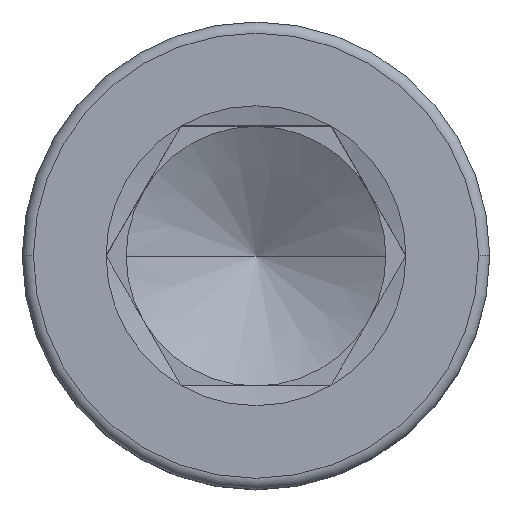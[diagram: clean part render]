
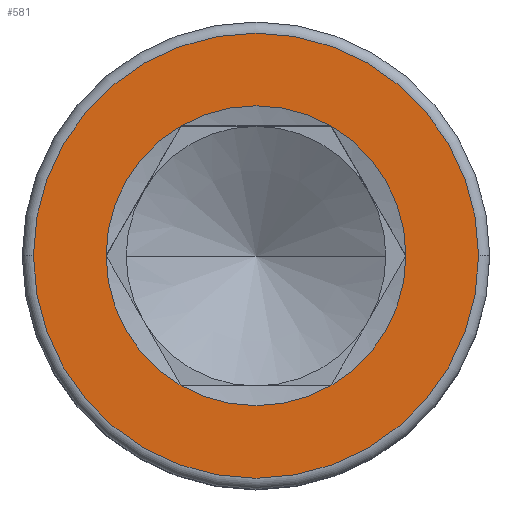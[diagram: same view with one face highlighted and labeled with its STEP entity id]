
A CAD part, top view. The second image highlights one B-rep face of the part: STEP entity #581.
In plain terms, the highlighted planar face has unit normal (0, 0, 1).
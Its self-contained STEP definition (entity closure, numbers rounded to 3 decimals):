
#19 = EDGE_CURVE ( 'NONE', #99, #1230, #98, .T. ) ;
#25 = VERTEX_POINT ( 'NONE', #1719 ) ;
#66 = CARTESIAN_POINT ( 'NONE',  ( 5.774, 0., 12. ) ) ;
#97 = CARTESIAN_POINT ( 'NONE',  ( 8.57, 0., 12. ) ) ;
#98 = CIRCLE ( 'NONE', #1722, 5.774 ) ;
#99 = VERTEX_POINT ( 'NONE', #66 ) ;
#115 = CARTESIAN_POINT ( 'NONE',  ( 0., 0., 12. ) ) ;
#132 = EDGE_LOOP ( 'NONE', ( #480, #725, #1412, #173, #459, #1137 ) ) ;
#136 = DIRECTION ( 'NONE',  ( 0., 0., 1. ) ) ;
#140 = EDGE_CURVE ( 'NONE', #901, #897, #1687, .T. ) ;
#151 = DIRECTION ( 'NONE',  ( 1., 0., 0. ) ) ;
#173 = ORIENTED_EDGE ( 'NONE', *, *, #692, .F. ) ;
#182 = CARTESIAN_POINT ( 'NONE',  ( -2.887, -5., 12. ) ) ;
#187 = CIRCLE ( 'NONE', #1304, 8.57 ) ;
#205 = DIRECTION ( 'NONE',  ( 0., 0., 1. ) ) ;
#222 = AXIS2_PLACEMENT_3D ( 'NONE', #1600, #476, #745 ) ;
#235 = CARTESIAN_POINT ( 'NONE',  ( 0., 0., 12. ) ) ;
#242 = EDGE_CURVE ( 'NONE', #1230, #1504, #645, .T. ) ;
#301 = AXIS2_PLACEMENT_3D ( 'NONE', #1752, #1530, #555 ) ;
#332 = DIRECTION ( 'NONE',  ( 0., 0., 1. ) ) ;
#357 = EDGE_LOOP ( 'NONE', ( #1263, #636 ) ) ;
#386 = AXIS2_PLACEMENT_3D ( 'NONE', #834, #1385, #427 ) ;
#405 = DIRECTION ( 'NONE',  ( 0., 0., 1. ) ) ;
#415 = FACE_BOUND ( 'NONE', #132, .T. ) ;
#427 = DIRECTION ( 'NONE',  ( 1., 0., 0. ) ) ;
#442 = CARTESIAN_POINT ( 'NONE',  ( 0., 0., 12. ) ) ;
#459 = ORIENTED_EDGE ( 'NONE', *, *, #1293, .F. ) ;
#476 = DIRECTION ( 'NONE',  ( 0., 0., 1. ) ) ;
#480 = ORIENTED_EDGE ( 'NONE', *, *, #19, .F. ) ;
#555 = DIRECTION ( 'NONE',  ( 1., 0., 0. ) ) ;
#567 = CIRCLE ( 'NONE', #883, 5.774 ) ;
#581 = ADVANCED_FACE ( 'NONE', ( #810, #415 ), #1360, .T. ) ;
#597 = EDGE_CURVE ( 'NONE', #843, #99, #1434, .T. ) ;
#612 = EDGE_CURVE ( 'NONE', #897, #901, #187, .T. ) ;
#636 = ORIENTED_EDGE ( 'NONE', *, *, #140, .T. ) ;
#645 = CIRCLE ( 'NONE', #386, 5.774 ) ;
#651 = CIRCLE ( 'NONE', #1105, 5.774 ) ;
#687 = DIRECTION ( 'NONE',  ( 1., 0., 0. ) ) ;
#692 = EDGE_CURVE ( 'NONE', #25, #1570, #651, .T. ) ;
#725 = ORIENTED_EDGE ( 'NONE', *, *, #597, .F. ) ;
#745 = DIRECTION ( 'NONE',  ( 1., 0., 0. ) ) ;
#810 = FACE_OUTER_BOUND ( 'NONE', #357, .T. ) ;
#834 = CARTESIAN_POINT ( 'NONE',  ( 0., 0., 12. ) ) ;
#843 = VERTEX_POINT ( 'NONE', #1738 ) ;
#883 = AXIS2_PLACEMENT_3D ( 'NONE', #235, #205, #902 ) ;
#897 = VERTEX_POINT ( 'NONE', #97 ) ;
#901 = VERTEX_POINT ( 'NONE', #1595 ) ;
#902 = DIRECTION ( 'NONE',  ( 1., 0., 0. ) ) ;
#913 = CIRCLE ( 'NONE', #222, 5.774 ) ;
#937 = AXIS2_PLACEMENT_3D ( 'NONE', #115, #136, #973 ) ;
#942 = CARTESIAN_POINT ( 'NONE',  ( 0., 0., 12. ) ) ;
#963 = AXIS2_PLACEMENT_3D ( 'NONE', #942, #405, #151 ) ;
#973 = DIRECTION ( 'NONE',  ( 1., 0., 0. ) ) ;
#1105 = AXIS2_PLACEMENT_3D ( 'NONE', #442, #1136, #1259 ) ;
#1134 = CARTESIAN_POINT ( 'NONE',  ( 2.887, 5., 12. ) ) ;
#1136 = DIRECTION ( 'NONE',  ( 0., 0., 1. ) ) ;
#1137 = ORIENTED_EDGE ( 'NONE', *, *, #242, .F. ) ;
#1230 = VERTEX_POINT ( 'NONE', #1134 ) ;
#1259 = DIRECTION ( 'NONE',  ( 1., 0., 0. ) ) ;
#1263 = ORIENTED_EDGE ( 'NONE', *, *, #612, .T. ) ;
#1280 = EDGE_CURVE ( 'NONE', #1570, #843, #913, .T. ) ;
#1293 = EDGE_CURVE ( 'NONE', #1504, #25, #567, .T. ) ;
#1304 = AXIS2_PLACEMENT_3D ( 'NONE', #1669, #1512, #687 ) ;
#1309 = DIRECTION ( 'NONE',  ( 1., 0., 0. ) ) ;
#1360 = PLANE ( 'NONE',  #937 ) ;
#1385 = DIRECTION ( 'NONE',  ( 0., 0., 1. ) ) ;
#1412 = ORIENTED_EDGE ( 'NONE', *, *, #1280, .F. ) ;
#1434 = CIRCLE ( 'NONE', #963, 5.774 ) ;
#1504 = VERTEX_POINT ( 'NONE', #1633 ) ;
#1512 = DIRECTION ( 'NONE',  ( 0., 0., 1. ) ) ;
#1530 = DIRECTION ( 'NONE',  ( 0., 0., 1. ) ) ;
#1570 = VERTEX_POINT ( 'NONE', #182 ) ;
#1585 = CARTESIAN_POINT ( 'NONE',  ( 0., 0., 12. ) ) ;
#1595 = CARTESIAN_POINT ( 'NONE',  ( -8.57, 0., 12. ) ) ;
#1600 = CARTESIAN_POINT ( 'NONE',  ( 0., 0., 12. ) ) ;
#1633 = CARTESIAN_POINT ( 'NONE',  ( -2.887, 5., 12. ) ) ;
#1669 = CARTESIAN_POINT ( 'NONE',  ( 0., 0., 12. ) ) ;
#1687 = CIRCLE ( 'NONE', #301, 8.57 ) ;
#1719 = CARTESIAN_POINT ( 'NONE',  ( -5.774, 0., 12. ) ) ;
#1722 = AXIS2_PLACEMENT_3D ( 'NONE', #1585, #332, #1309 ) ;
#1738 = CARTESIAN_POINT ( 'NONE',  ( 2.887, -5., 12. ) ) ;
#1752 = CARTESIAN_POINT ( 'NONE',  ( 0., 0., 12. ) ) ;
